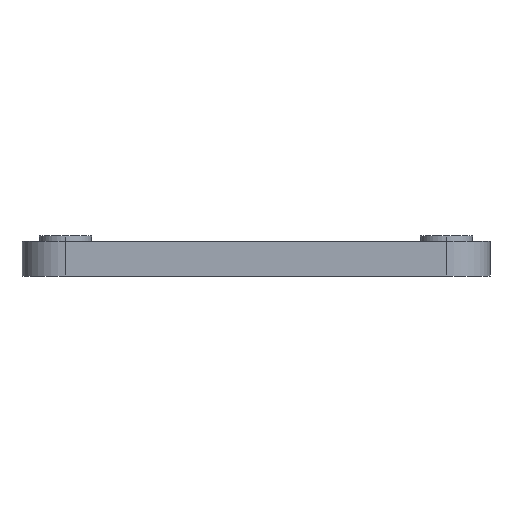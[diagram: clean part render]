
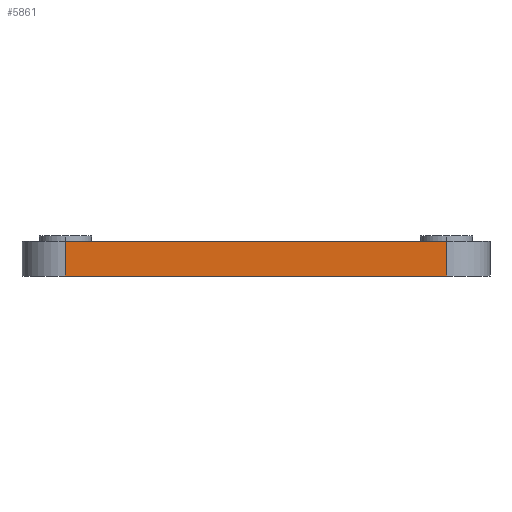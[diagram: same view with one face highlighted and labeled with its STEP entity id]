
A CAD part, left-side view. The second image highlights one B-rep face of the part: STEP entity #5861.
In plain terms, the highlighted planar face has unit normal (-1, 0, 0).
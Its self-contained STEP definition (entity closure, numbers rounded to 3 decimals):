
#155 = VECTOR ( 'NONE', #3683, 1000. ) ;
#249 = EDGE_CURVE ( 'NONE', #830, #6050, #2094, .T. ) ;
#320 = LINE ( 'NONE', #692, #3739 ) ;
#398 = VECTOR ( 'NONE', #1691, 1000. ) ;
#651 = CARTESIAN_POINT ( 'NONE',  ( -34.9, 21.9, 4. ) ) ;
#692 = CARTESIAN_POINT ( 'NONE',  ( -34.9, -21.9, -6. ) ) ;
#830 = VERTEX_POINT ( 'NONE', #2763 ) ;
#980 = ORIENTED_EDGE ( 'NONE', *, *, #1773, .T. ) ;
#1232 = CARTESIAN_POINT ( 'NONE',  ( -34.9, 0., 0. ) ) ;
#1316 = VECTOR ( 'NONE', #2671, 1000. ) ;
#1350 = FACE_OUTER_BOUND ( 'NONE', #4210, .T. ) ;
#1691 = DIRECTION ( 'NONE',  ( 0., 0., 1. ) ) ;
#1773 = EDGE_CURVE ( 'NONE', #2485, #5467, #320, .T. ) ;
#1994 = CARTESIAN_POINT ( 'NONE',  ( -34.9, -21.9, 0. ) ) ;
#2094 = LINE ( 'NONE', #4915, #398 ) ;
#2120 = LINE ( 'NONE', #1232, #1316 ) ;
#2297 = ORIENTED_EDGE ( 'NONE', *, *, #5253, .T. ) ;
#2485 = VERTEX_POINT ( 'NONE', #1994 ) ;
#2671 = DIRECTION ( 'NONE',  ( 0., -1., 0. ) ) ;
#2759 = DIRECTION ( 'NONE',  ( -1., 0., 0. ) ) ;
#2763 = CARTESIAN_POINT ( 'NONE',  ( -34.9, 21.9, 0. ) ) ;
#3160 = PLANE ( 'NONE',  #4845 ) ;
#3288 = ORIENTED_EDGE ( 'NONE', *, *, #249, .F. ) ;
#3463 = CARTESIAN_POINT ( 'NONE',  ( -34.9, -21.9, 4. ) ) ;
#3556 = CARTESIAN_POINT ( 'NONE',  ( -34.9, 0., -6. ) ) ;
#3683 = DIRECTION ( 'NONE',  ( 0., -1., 0. ) ) ;
#3739 = VECTOR ( 'NONE', #4873, 1000. ) ;
#4032 = EDGE_CURVE ( 'NONE', #6050, #5467, #5905, .T. ) ;
#4210 = EDGE_LOOP ( 'NONE', ( #2297, #980, #4490, #3288 ) ) ;
#4490 = ORIENTED_EDGE ( 'NONE', *, *, #4032, .F. ) ;
#4845 = AXIS2_PLACEMENT_3D ( 'NONE', #3556, #2759, #6027 ) ;
#4873 = DIRECTION ( 'NONE',  ( 0., 0., 1. ) ) ;
#4915 = CARTESIAN_POINT ( 'NONE',  ( -34.9, 21.9, -6. ) ) ;
#5253 = EDGE_CURVE ( 'NONE', #830, #2485, #2120, .T. ) ;
#5467 = VERTEX_POINT ( 'NONE', #3463 ) ;
#5861 = ADVANCED_FACE ( 'NONE', ( #1350 ), #3160, .T. ) ;
#5905 = LINE ( 'NONE', #5936, #155 ) ;
#5936 = CARTESIAN_POINT ( 'NONE',  ( -34.9, 0., 4. ) ) ;
#6027 = DIRECTION ( 'NONE',  ( 0., 0., 1. ) ) ;
#6050 = VERTEX_POINT ( 'NONE', #651 ) ;
